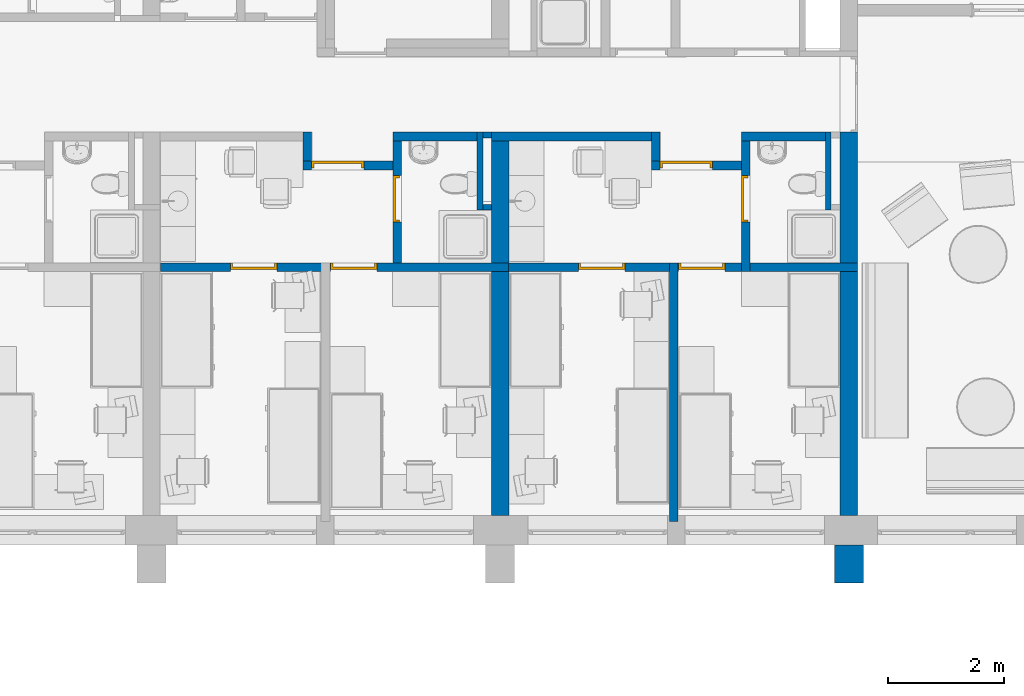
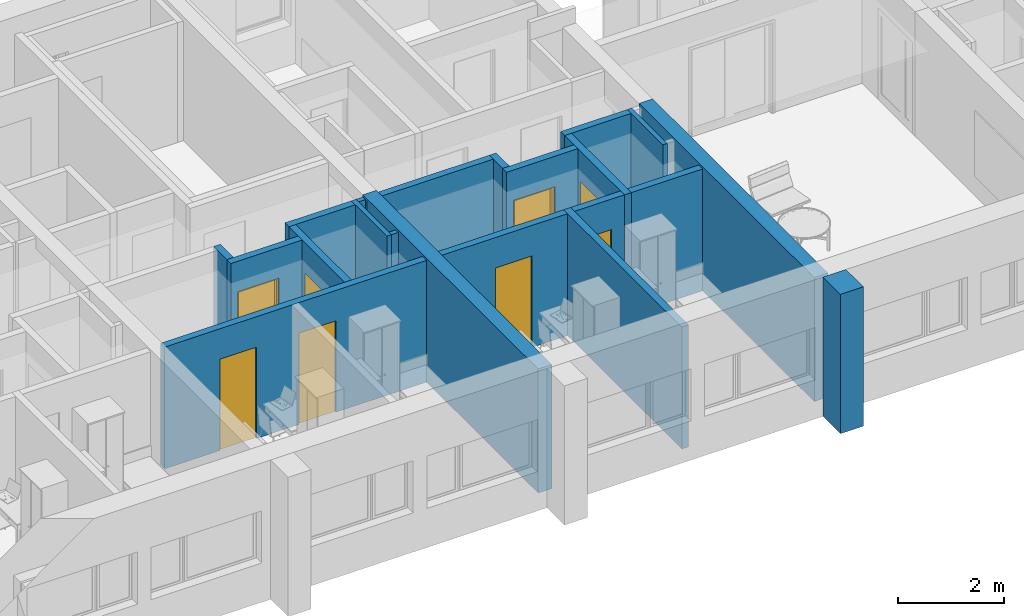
# One storey, part 11 of 165: 19 walls, 8 doors, 8 openings.
"""IFC2X3 building model written with IfcOpenShell, lengths in millimetres."""

from ifc_helpers import new_model, entity, si_unit, converted_unit, money_unit, direction, frame, origin_with_axes, place, context, subcontext, project, spatial, polyline, outline, extrude, faceted_brep, source, transform, mapped, material, material_list, layer, layer_set, layer_usage, type_object, element, fill, save


model = new_model("IFC2X3")

# Units and contexts
model_context = context("Model", 3, precision=1e-05, world=origin_with_axes(), true_north=direction((0.0, 1.0)))
body_context = subcontext(model_context, "Body", "Model", "MODEL_VIEW")
ifc_project = project(units=[si_unit("LENGTHUNIT", "METRE", prefix="MILLI"), si_unit("AREAUNIT", "SQUARE_METRE"), si_unit("VOLUMEUNIT", "CUBIC_METRE"), converted_unit("PLANEANGLEUNIT", "DEGREE", entity("IfcPlaneAngleMeasure", 0.0174532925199), si_unit("PLANEANGLEUNIT", "RADIAN"), dimensions=[0, 0, 0, 0, 0, 0, 0]), si_unit("SOLIDANGLEUNIT", "STERADIAN"), money_unit("USD"), converted_unit("TIMEUNIT", "Year", entity("IfcTimeMeasure", 31556926.0), si_unit("TIMEUNIT", "SECOND"), dimensions=[0, 0, 0, 0, 0, 0, 0]), si_unit("MASSUNIT", "GRAM"), si_unit("THERMODYNAMICTEMPERATUREUNIT", "DEGREE_CELSIUS"), si_unit("LUMINOUSINTENSITYUNIT", "LUMEN")], contexts=[model_context])

# Site, building, storey
site_placement = place(None, origin_with_axes())
site = spatial("IfcSite", under=ifc_project, at=site_placement, Name="Site", CompositionType="ELEMENT")
building_placement = place(site_placement, origin_with_axes())
building = spatial("IfcBuilding", under=site, at=building_placement, Name="Building", CompositionType="ELEMENT")
storey_placement = place(building_placement, frame((0.0, 0.0, 6300.0), z_axis=(0.0, 0.0, 1.0), x_axis=(1.0, 0.0, 0.0)))
storey = spatial("IfcBuildingStorey", under=building, at=storey_placement, Name="4KORRUS", CompositionType="ELEMENT", Elevation=6300.0)

# Wall
ifc_material_1 = material(Name="Olemasolevad seinad tellis, uus viimistlus")
ifc_layer_1 = layer(ifc_material_1, 500.0, ventilated="UNKNOWN")
ifc_layer_set_1 = layer_set([ifc_layer_1], Name="Olemasolevad seinad tellis, uus viimistlus 500")
ifc_layer_usage_1 = layer_usage(ifc_layer_set_1, "AXIS2", "POSITIVE", -100.0)
wall_type_1 = type_object("IfcWallType", Name="Olemasolevad seinad tellis, uus viimistlus 500", PredefinedType="NOTDEFINED")
wall_1_placement = place(storey_placement, frame((-11990.2967033, -20796.6419407, 0.0), z_axis=(0.0, 0.0, 1.0), x_axis=(0.0, 1.0, 0.0)))
element("IfcWallStandardCase", 1, at=wall_1_placement, inside=storey, type_object=wall_type_1, material=ifc_layer_usage_1, Name="VS1", ObjectType="VS1", context=body_context, shape_type="SweptSolid", body=[
    extrude(outline(polyline([(0.0, -100.0), (657.402041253, -100.0), (657.402041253, 400.0), (0.0, 400.0), (0.0, -100.0)])), origin_with_axes(), (0.0, 0.0, 1.0), 3200.0),
])

# Wall, opening, door
ifc_material_2 = material(Name="UmbKipsplaat")
ifc_layer_2 = layer(ifc_material_2, 13.0, ventilated="UNKNOWN")
ifc_layer_3 = layer(ifc_material_2, 13.0, ventilated="UNKNOWN")
ifc_material_3 = material(Name="SOOJUSTUS MINERAALVILL")
ifc_layer_4 = layer(ifc_material_3, 98.0, ventilated="UNKNOWN")
ifc_layer_5 = layer(ifc_material_2, 13.0, ventilated="UNKNOWN")
ifc_layer_6 = layer(ifc_material_2, 13.0, ventilated="UNKNOWN")
ifc_layer_set_2 = layer_set([ifc_layer_2, ifc_layer_3, ifc_layer_4, ifc_layer_5, ifc_layer_6], Name="kipssein150")
ifc_layer_usage_2 = layer_usage(ifc_layer_set_2, "AXIS2", "POSITIVE", -150.0)
wall_type_2 = type_object("IfcWallType", Name="kipssein150 150", PredefinedType="NOTDEFINED")
wall_2_placement = place(storey_placement, frame((-13990.4900844, -15439.2398994, 0.0), z_axis=(0.0, 0.0, 1.0), x_axis=(0.0, 1.0, 0.0)))
wall_2 = element("IfcWallStandardCase", 2, at=wall_2_placement, inside=storey, type_object=wall_type_2, material=ifc_layer_usage_2, Name="SS1", ObjectType="SS1", context=body_context, shape_type="SweptSolid", body=[
    extrude(outline(polyline([(0.0, -150.0), (2399.86932682, -150.0), (2399.86932682, 0.0), (0.0, 0.0), (0.0, -150.0)])), origin_with_axes(), (0.0, 0.0, 1.0), 2800.0),
])
opening_1_placement = place(wall_2_placement, frame((1249.78749111, 0.0, 0.0), z_axis=(0.0, 0.0, 1.0), x_axis=(1.0, 0.0, 0.0)))
opening_1 = element("IfcOpeningElement", 3, at=opening_1_placement, cuts=wall_2, Name="SU3-2", context=body_context, shape_type="SweptSolid", body=[
    extrude(outline(polyline([(-400.0, -2100.0), (400.0, -2100.0), (400.0, 0.0), (-400.0, 0.0), (-400.0, -2100.0)])), frame((0.0, -150.0, 0.0), z_axis=(0.0, 1.0, 0.0), x_axis=(1.0, 0.0, 0.0)), (0.0, 0.0, 1.0), 450.0),
])
ifc_material_4 = material(Name="Background")
ifc_material_list = material_list([ifc_material_4])
door_style_1 = type_object("IfcDoorStyle", Name="Door 19", ConstructionType="NOTDEFINED", OperationType="SINGLE_SWING_RIGHT", ParameterTakesPrecedence=False, Sizeable=False)
shared_shape_1 = source(origin_with_axes(), body_context, "Body", "Brep", [
    faceted_brep([(-360.0, -40.0, 0.0), (-360.0, -40.0, 2060.0), (-360.0, -115.0, 2060.0), (-360.0, -115.0, 0.0), (-372.0, -40.0, 2060.0), (-372.0, -40.0, 0.0), (-372.0, 0.0, 2060.0), (-400.0, 0.0, 2060.0), (-400.0, -115.0, 2060.0), (-400.0, -115.0, 0.0), (-400.0, 0.0, 0.0), (-372.0, 0.0, 0.0)], [[[0, 1, 2, 3]], [[4, 1, 0, 5]], [[4, 6, 7, 8, 2, 1]], [[2, 8, 9, 3]], [[5, 0, 3, 9, 10, 11]], [[6, 4, 5, 11]], [[6, 11, 10, 7]], [[9, 8, 7, 10]]]),
    faceted_brep([(372.0, -40.0, 2060.0), (360.0, -40.0, 2060.0), (360.0, -115.0, 2060.0), (400.0, -115.0, 2060.0), (400.0, 0.0, 2060.0), (372.0, 0.0, 2060.0), (372.0, -40.0, 0.0), (360.0, -40.0, 0.0), (360.0, -115.0, 0.0), (400.0, -115.0, 0.0), (400.0, 0.0, 0.0), (372.0, 0.0, 0.0)], [[[0, 1, 2, 3, 4, 5]], [[1, 0, 6, 7]], [[1, 7, 8, 2]], [[2, 8, 9, 3]], [[3, 9, 10, 4]], [[11, 5, 4, 10]], [[0, 5, 11, 6]], [[6, 11, 10, 9, 8, 7]]]),
    faceted_brep([(-372.0, 0.0, 2072.0), (-372.0, 0.0, 2060.0), (-400.0, 0.0, 2060.0), (-400.0, 0.0, 2100.0), (400.0, 0.0, 2100.0), (400.0, 0.0, 2060.0), (372.0, 0.0, 2060.0), (372.0, 0.0, 2072.0), (-372.0, -40.0, 2072.0), (-372.0, -40.0, 2060.0), (-360.0, -40.0, 2060.0), (-360.0, -115.0, 2060.0), (-400.0, -115.0, 2060.0), (-400.0, -115.0, 2100.0), (400.0, -115.0, 2100.0), (400.0, -115.0, 2060.0), (372.0, -40.0, 2060.0), (360.0, -115.0, 2060.0), (360.0, -40.0, 2060.0), (372.0, -40.0, 2072.0)], [[[0, 1, 2, 3, 4, 5, 6, 7]], [[1, 0, 8, 9]], [[9, 10, 11, 12, 2, 1]], [[12, 13, 3, 2]], [[13, 14, 4, 3]], [[14, 15, 5, 4]], [[16, 6, 5, 15, 17, 18]], [[7, 6, 16, 19]], [[0, 7, 19, 8]], [[16, 18, 10, 9, 8, 19]], [[10, 18, 17, 11]], [[15, 14, 13, 12, 11, 17]]]),
    faceted_brep([(372.0, 0.0, 0.0), (372.0, -40.0, 0.0), (-372.0, -40.0, 0.0), (-372.0, 0.0, 0.0), (372.0, 0.0, 2072.0), (372.0, -40.0, 2072.0), (-372.0, -40.0, 2072.0), (-372.0, 0.0, 2072.0)], [[[0, 1, 2, 3]], [[4, 5, 1, 0]], [[1, 5, 6, 2]], [[3, 2, 6, 7]], [[0, 3, 7, 4]], [[7, 6, 5, 4]]]),
])
door_1_placement = place(opening_1_placement, frame((-400.0, 0.0, 0.0), z_axis=(0.0, 0.0, 1.0), x_axis=(1.0, 0.0, 0.0)))
door_1 = element("IfcDoor", 4, at=door_1_placement, inside=storey, type_object=door_style_1, material=ifc_material_list, Name="SU3-2", ObjectType="WC-uks", OverallHeight=2100.0, OverallWidth=800.0, context=body_context, shape_type="MappedRepresentation", body=[
    mapped(shared_shape_1, transform((400.0, 0.0, 0.0))),
])
fill(opening_1, door_1)

# Wall
ifc_layer_usage_3 = layer_usage(ifc_layer_set_2, "AXIS2", "POSITIVE", 0.0)
wall_3_placement = place(storey_placement, frame((-21533.8623684, -13039.2398994, 0.0), z_axis=(0.0, 0.0, 1.0), x_axis=(0.0, -1.0, 0.0)))
element("IfcWallStandardCase", 5, at=wall_3_placement, inside=storey, type_object=wall_type_2, material=ifc_layer_usage_3, Name="SS1", ObjectType="SS1", context=body_context, shape_type="SweptSolid", body=[
    extrude(outline(polyline([(0.0, 0.0), (500.212508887, 0.0), (500.212508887, 150.0), (0.0, 150.0), (0.0, 0.0)])), origin_with_axes(), (0.0, 0.0, 1.0), 2800.0),
])

# Wall, opening, door
ifc_layer_usage_4 = layer_usage(ifc_layer_set_2, "AXIS2", "POSITIVE", -150.0)
wall_4_placement = place(storey_placement, frame((-19984.201689, -15289.2398994, 0.0), z_axis=(0.0, 0.0, 1.0), x_axis=(0.0, 1.0, 0.0)))
wall_4 = element("IfcWallStandardCase", 6, at=wall_4_placement, inside=storey, type_object=wall_type_2, material=ifc_layer_usage_4, Name="SS1", ObjectType="SS1", context=body_context, shape_type="SweptSolid", body=[
    extrude(outline(polyline([(0.0, -150.0), (2249.86932682, -150.0), (2249.86932682, 0.0), (0.0, 0.0), (0.0, -150.0)])), origin_with_axes(), (0.0, 0.0, 1.0), 2800.0),
])
opening_2_placement = place(wall_4_placement, frame((1099.78749111, 0.0, 0.0), z_axis=(0.0, 0.0, 1.0), x_axis=(1.0, 0.0, 0.0)))
opening_2 = element("IfcOpeningElement", 7, at=opening_2_placement, cuts=wall_4, Name="SU3-2", context=body_context, shape_type="SweptSolid", body=[
    extrude(outline(polyline([(-400.0, -2100.0), (400.0, -2100.0), (400.0, 0.0), (-400.0, 0.0), (-400.0, -2100.0)])), frame((0.0, -150.0, 0.0), z_axis=(0.0, 1.0, 0.0), x_axis=(1.0, 0.0, 0.0)), (0.0, 0.0, 1.0), 450.0),
])
door_style_2 = type_object("IfcDoorStyle", Name="Door 19", ConstructionType="NOTDEFINED", OperationType="SINGLE_SWING_RIGHT", ParameterTakesPrecedence=False, Sizeable=False)
door_2_placement = place(opening_2_placement, frame((-400.0, 0.0, 0.0), z_axis=(0.0, 0.0, 1.0), x_axis=(1.0, 0.0, 0.0)))
door_2 = element("IfcDoor", 8, at=door_2_placement, inside=storey, type_object=door_style_2, material=ifc_material_list, Name="SU3-2", ObjectType="WC-uks", OverallHeight=2100.0, OverallWidth=800.0, context=body_context, shape_type="MappedRepresentation", body=[
    mapped(shared_shape_1, transform((400.0, 0.0, 0.0))),
])
fill(opening_2, door_2)

# Wall
ifc_layer_usage_5 = layer_usage(ifc_layer_set_2, "AXIS2", "POSITIVE", -150.0)
wall_5_placement = place(storey_placement, frame((-19984.201689, -13039.3705726, 0.0), z_axis=(0.0, 0.0, 1.0), x_axis=(1.0, 0.0, 0.0)))
element("IfcWallStandardCase", 9, at=wall_5_placement, inside=storey, type_object=wall_type_2, material=ifc_layer_usage_5, Name="SS1", ObjectType="SS1", context=body_context, shape_type="SweptSolid", body=[
    extrude(outline(polyline([(0.0, -150.0), (1450.19338105, -150.0), (1450.19338105, 0.0), (0.0, 0.0), (0.0, -150.0)])), origin_with_axes(), (0.0, 0.0, 1.0), 2800.0),
])

# Wall, opening, door
ifc_layer_usage_6 = layer_usage(ifc_layer_set_2, "AXIS2", "POSITIVE", 0.0)
wall_6_placement = place(storey_placement, frame((-13990.4900844, -13539.4524083, 0.0), z_axis=(0.0, 0.0, 1.0), x_axis=(-1.0, 0.0, 0.0)))
wall_6 = element("IfcWallStandardCase", 10, at=wall_6_placement, inside=storey, type_object=wall_type_2, material=ifc_layer_usage_6, Name="SS1", ObjectType="SS1", context=body_context, shape_type="SweptSolid", body=[
    extrude(outline(polyline([(0.0, 0.0), (1549.66067938, 0.0), (1549.66067938, 150.0), (0.0, 150.0), (0.0, 0.0)])), origin_with_axes(), (0.0, 0.0, 1.0), 2800.0),
])
opening_3_placement = place(wall_6_placement, frame((949.660679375, 0.0, 0.0), z_axis=(0.0, 0.0, 1.0), x_axis=(1.0, 0.0, 0.0)))
opening_3 = element("IfcOpeningElement", 11, at=opening_3_placement, cuts=wall_6, Name="SU2-6", context=body_context, shape_type="SweptSolid", body=[
    extrude(outline(polyline([(-450.0, -2100.0), (450.0, -2100.0), (450.0, 0.0), (-450.0, 0.0), (-450.0, -2100.0)])), frame((0.0, 150.0, 0.0), z_axis=(0.0, 1.0, 0.0), x_axis=(1.0, 0.0, 0.0)), (0.0, 0.0, -1.0), 450.0),
])
door_style_3 = type_object("IfcDoorStyle", Name="Door 19", ConstructionType="NOTDEFINED", OperationType="SINGLE_SWING_LEFT", ParameterTakesPrecedence=False, Sizeable=False)
shared_shape_2 = source(origin_with_axes(), body_context, "Body", "Brep", [
    faceted_brep([(410.0, -40.0, 0.0), (410.0, -115.0, 0.0), (410.0, -115.0, 2060.0), (410.0, -40.0, 2060.0), (422.0, -40.0, 0.0), (422.0, 0.0, 0.0), (450.0, 0.0, 0.0), (450.0, -115.0, 0.0), (450.0, -115.0, 2060.0), (422.0, -40.0, 2060.0), (450.0, 0.0, 2060.0), (422.0, 0.0, 2060.0)], [[[0, 1, 2, 3]], [[4, 5, 6, 7, 1, 0]], [[2, 1, 7, 8]], [[9, 3, 2, 8, 10, 11]], [[9, 4, 0, 3]], [[11, 5, 4, 9]], [[11, 10, 6, 5]], [[7, 6, 10, 8]]]),
    faceted_brep([(-422.0, -40.0, 2060.0), (-422.0, 0.0, 2060.0), (-450.0, 0.0, 2060.0), (-450.0, -115.0, 2060.0), (-410.0, -115.0, 2060.0), (-410.0, -40.0, 2060.0), (-422.0, -40.0, 0.0), (-422.0, 0.0, 0.0), (-450.0, 0.0, 0.0), (-450.0, -115.0, 0.0), (-410.0, -115.0, 0.0), (-410.0, -40.0, 0.0)], [[[0, 1, 2, 3, 4, 5]], [[0, 6, 7, 1]], [[7, 8, 2, 1]], [[3, 2, 8, 9]], [[4, 3, 9, 10]], [[5, 4, 10, 11]], [[5, 11, 6, 0]], [[6, 11, 10, 9, 8, 7]]]),
    faceted_brep([(422.0, 0.0, 2072.0), (-422.0, 0.0, 2072.0), (-422.0, 0.0, 2060.0), (-450.0, 0.0, 2060.0), (-450.0, 0.0, 2100.0), (450.0, 0.0, 2100.0), (450.0, 0.0, 2060.0), (422.0, 0.0, 2060.0), (422.0, -40.0, 2072.0), (-422.0, -40.0, 2072.0), (-422.0, -40.0, 2060.0), (-410.0, -40.0, 2060.0), (-410.0, -115.0, 2060.0), (-450.0, -115.0, 2060.0), (-450.0, -115.0, 2100.0), (450.0, -115.0, 2100.0), (450.0, -115.0, 2060.0), (422.0, -40.0, 2060.0), (410.0, -115.0, 2060.0), (410.0, -40.0, 2060.0)], [[[0, 1, 2, 3, 4, 5, 6, 7]], [[0, 8, 9, 1]], [[1, 9, 10, 2]], [[10, 11, 12, 13, 3, 2]], [[14, 4, 3, 13]], [[15, 5, 4, 14]], [[16, 6, 5, 15]], [[17, 7, 6, 16, 18, 19]], [[7, 17, 8, 0]], [[10, 9, 8, 17, 19, 11]], [[19, 18, 12, 11]], [[13, 12, 18, 16, 15, 14]]]),
    faceted_brep([(-422.0, 0.0, 0.0), (422.0, 0.0, 0.0), (422.0, -40.0, 0.0), (-422.0, -40.0, 0.0), (-422.0, 0.0, 2072.0), (422.0, 0.0, 2072.0), (422.0, -40.0, 2072.0), (-422.0, -40.0, 2072.0)], [[[0, 1, 2, 3]], [[0, 4, 5, 1]], [[1, 5, 6, 2]], [[3, 2, 6, 7]], [[4, 0, 3, 7]], [[5, 4, 7, 6]]]),
])
door_3_placement = place(opening_3_placement, frame((450.0, 0.0, 0.0), z_axis=(0.0, 0.0, 1.0), x_axis=(-1.0, 0.0, 0.0)))
door_3 = element("IfcDoor", 12, at=door_3_placement, inside=storey, type_object=door_style_3, material=ifc_material_list, Name="SU2-6", ObjectType="Korteri välisuks", OverallHeight=2100.0, OverallWidth=900.0, context=body_context, shape_type="MappedRepresentation", body=[
    mapped(shared_shape_2, transform((450.0, 0.0, 0.0))),
])
fill(opening_3, door_3)

# Walls
ifc_layer_usage_7 = layer_usage(ifc_layer_set_2, "AXIS2", "POSITIVE", 0.0)
wall_7_placement = place(storey_placement, frame((-15076.5850987, -19739.2398994, 0.0), z_axis=(0.0, 0.0, 1.0), x_axis=(0.0, 1.0, 0.0)))
element("IfcWallStandardCase", 13, at=wall_7_placement, inside=storey, type_object=wall_type_2, material=ifc_layer_usage_7, Name="SS1", ObjectType="SS1", context=body_context, shape_type="SweptSolid", body=[
    extrude(outline(polyline([(0.0, 0.0), (4450.0, 0.0), (4450.0, 150.0), (0.0, 150.0), (0.0, 0.0)])), origin_with_axes(), (0.0, 0.0, 1.0), 2800.0),
])
ifc_layer_usage_8 = layer_usage(ifc_layer_set_2, "AXIS2", "POSITIVE", 0.0)
wall_8_placement = place(storey_placement, frame((-15540.1507637, -13039.2398994, 0.0), z_axis=(0.0, 0.0, 1.0), x_axis=(-1.0, 0.0, 0.0)))
element("IfcWallStandardCase", 14, at=wall_8_placement, inside=storey, type_object=wall_type_2, material=ifc_layer_usage_8, Name="SS1", ObjectType="SS1", context=body_context, shape_type="SweptSolid", body=[
    extrude(outline(polyline([(0.0, 0.0), (2750.14593957, 0.0), (2750.14593957, 150.0), (0.0, 150.0), (0.0, 0.0)])), origin_with_axes(), (0.0, 0.0, 1.0), 2800.0),
])

# Wall, openings, doors
ifc_layer_usage_9 = layer_usage(ifc_layer_set_2, "AXIS2", "POSITIVE", -150.0)
wall_9_placement = place(storey_placement, frame((-11990.2967033, -15439.2398994, 0.0), z_axis=(0.0, 0.0, 1.0), x_axis=(-1.0, 0.0, 0.0)))
wall_9 = element("IfcWallStandardCase", 15, at=wall_9_placement, inside=storey, type_object=wall_type_2, material=ifc_layer_usage_9, Name="SS1", ObjectType="SS1", context=body_context, shape_type="SweptSolid", body=[
    extrude(outline(polyline([(0.0, -150.0), (6006.28839536, -150.0), (6006.28839536, 0.0), (0.0, 0.0), (0.0, -150.0)])), origin_with_axes(), (0.0, 0.0, 1.0), 2800.0),
])
opening_4_placement = place(wall_9_placement, frame((4406.28839536, 0.0, 0.0), z_axis=(0.0, 0.0, 1.0), x_axis=(1.0, 0.0, 0.0)))
opening_4 = element("IfcOpeningElement", 16, at=opening_4_placement, cuts=wall_9, Name="SU3-5", context=body_context, shape_type="SweptSolid", body=[
    extrude(outline(polyline([(-400.0, 0.0), (400.0, 0.0), (400.0, 2100.0), (-400.0, 2100.0), (-400.0, 0.0)])), frame((0.0, 150.0, 0.0), z_axis=(0.0, 1.0, 0.0), x_axis=(-1.0, 0.0, 0.0)), (0.0, 0.0, -1.0), 450.0),
])
opening_5_placement = place(wall_9_placement, frame((2681.28839536, 0.0, 0.0), z_axis=(0.0, 0.0, 1.0), x_axis=(1.0, 0.0, 0.0)))
opening_5 = element("IfcOpeningElement", 17, at=opening_5_placement, cuts=wall_9, Name="SU3-4", context=body_context, shape_type="SweptSolid", body=[
    extrude(outline(polyline([(-400.0, 0.0), (400.0, 0.0), (400.0, 2100.0), (-400.0, 2100.0), (-400.0, 0.0)])), frame((0.0, 150.0, 0.0), z_axis=(0.0, -1.0, 0.0), x_axis=(1.0, 0.0, 0.0)), (0.0, 0.0, 1.0), 450.0),
])
door_style_4 = type_object("IfcDoorStyle", Name="Door 19", ConstructionType="NOTDEFINED", OperationType="SINGLE_SWING_LEFT", ParameterTakesPrecedence=False, Sizeable=False)
shared_shape_3 = source(origin_with_axes(), body_context, "Body", "Brep", [
    faceted_brep([(360.0, -75.0, 0.0), (360.0, -150.0, 0.0), (360.0, -150.0, 2060.0), (360.0, -75.0, 2060.0), (372.0, -75.0, 0.0), (372.0, -35.0, 0.0), (400.0, -35.0, 0.0), (400.0, -150.0, 0.0), (400.0, -150.0, 2060.0), (372.0, -75.0, 2060.0), (400.0, -35.0, 2060.0), (372.0, -35.0, 2060.0)], [[[0, 1, 2, 3]], [[4, 5, 6, 7, 1, 0]], [[2, 1, 7, 8]], [[9, 3, 2, 8, 10, 11]], [[9, 4, 0, 3]], [[11, 5, 4, 9]], [[11, 10, 6, 5]], [[7, 6, 10, 8]]]),
    faceted_brep([(-372.0, -75.0, 2060.0), (-372.0, -35.0, 2060.0), (-400.0, -35.0, 2060.0), (-400.0, -150.0, 2060.0), (-360.0, -150.0, 2060.0), (-360.0, -75.0, 2060.0), (-372.0, -75.0, 0.0), (-372.0, -35.0, 0.0), (-400.0, -35.0, 0.0), (-400.0, -150.0, 0.0), (-360.0, -150.0, 0.0), (-360.0, -75.0, 0.0)], [[[0, 1, 2, 3, 4, 5]], [[0, 6, 7, 1]], [[7, 8, 2, 1]], [[3, 2, 8, 9]], [[4, 3, 9, 10]], [[5, 4, 10, 11]], [[5, 11, 6, 0]], [[6, 11, 10, 9, 8, 7]]]),
    faceted_brep([(372.0, -35.0, 2072.0), (-372.0, -35.0, 2072.0), (-372.0, -35.0, 2060.0), (-400.0, -35.0, 2060.0), (-400.0, -35.0, 2100.0), (400.0, -35.0, 2100.0), (400.0, -35.0, 2060.0), (372.0, -35.0, 2060.0), (372.0, -75.0, 2072.0), (-372.0, -75.0, 2072.0), (-372.0, -75.0, 2060.0), (-360.0, -75.0, 2060.0), (-360.0, -150.0, 2060.0), (-400.0, -150.0, 2060.0), (-400.0, -150.0, 2100.0), (400.0, -150.0, 2100.0), (400.0, -150.0, 2060.0), (372.0, -75.0, 2060.0), (360.0, -150.0, 2060.0), (360.0, -75.0, 2060.0)], [[[0, 1, 2, 3, 4, 5, 6, 7]], [[0, 8, 9, 1]], [[1, 9, 10, 2]], [[10, 11, 12, 13, 3, 2]], [[14, 4, 3, 13]], [[15, 5, 4, 14]], [[16, 6, 5, 15]], [[17, 7, 6, 16, 18, 19]], [[7, 17, 8, 0]], [[10, 9, 8, 17, 19, 11]], [[19, 18, 12, 11]], [[13, 12, 18, 16, 15, 14]]]),
    faceted_brep([(-372.0, -35.0, 0.0), (372.0, -35.0, 0.0), (372.0, -75.0, 0.0), (-372.0, -75.0, 0.0), (-372.0, -35.0, 2072.0), (372.0, -35.0, 2072.0), (372.0, -75.0, 2072.0), (-372.0, -75.0, 2072.0)], [[[0, 1, 2, 3]], [[0, 4, 5, 1]], [[1, 5, 6, 2]], [[3, 2, 6, 7]], [[4, 0, 3, 7]], [[5, 4, 7, 6]]]),
])
door_4_placement = place(opening_4_placement, frame((-400.0, 0.0, 0.0), z_axis=(0.0, 0.0, 1.0), x_axis=(1.0, 0.0, 0.0)))
door_4 = element("IfcDoor", 18, at=door_4_placement, inside=storey, type_object=door_style_4, material=ifc_material_list, Name="SU3-5", ObjectType="Toa uks", OverallHeight=2100.0, OverallWidth=800.0, context=body_context, shape_type="MappedRepresentation", body=[
    mapped(shared_shape_3, transform((400.0, 0.0, 0.0))),
])
fill(opening_4, door_4)
door_style_5 = type_object("IfcDoorStyle", Name="Door 19", ConstructionType="NOTDEFINED", OperationType="SINGLE_SWING_RIGHT", ParameterTakesPrecedence=False, Sizeable=False)
shared_shape_4 = source(origin_with_axes(), body_context, "Body", "Brep", [
    faceted_brep([(-360.0, -75.0, 0.0), (-360.0, -75.0, 2060.0), (-360.0, -150.0, 2060.0), (-360.0, -150.0, 0.0), (-372.0, -75.0, 2060.0), (-372.0, -75.0, 0.0), (-372.0, -35.0, 2060.0), (-400.0, -35.0, 2060.0), (-400.0, -150.0, 2060.0), (-400.0, -150.0, 0.0), (-400.0, -35.0, 0.0), (-372.0, -35.0, 0.0)], [[[0, 1, 2, 3]], [[4, 1, 0, 5]], [[4, 6, 7, 8, 2, 1]], [[2, 8, 9, 3]], [[5, 0, 3, 9, 10, 11]], [[6, 4, 5, 11]], [[6, 11, 10, 7]], [[9, 8, 7, 10]]]),
    faceted_brep([(372.0, -75.0, 2060.0), (360.0, -75.0, 2060.0), (360.0, -150.0, 2060.0), (400.0, -150.0, 2060.0), (400.0, -35.0, 2060.0), (372.0, -35.0, 2060.0), (372.0, -75.0, 0.0), (360.0, -75.0, 0.0), (360.0, -150.0, 0.0), (400.0, -150.0, 0.0), (400.0, -35.0, 0.0), (372.0, -35.0, 0.0)], [[[0, 1, 2, 3, 4, 5]], [[1, 0, 6, 7]], [[1, 7, 8, 2]], [[2, 8, 9, 3]], [[3, 9, 10, 4]], [[11, 5, 4, 10]], [[0, 5, 11, 6]], [[6, 11, 10, 9, 8, 7]]]),
    faceted_brep([(-372.0, -35.0, 2072.0), (-372.0, -35.0, 2060.0), (-400.0, -35.0, 2060.0), (-400.0, -35.0, 2100.0), (400.0, -35.0, 2100.0), (400.0, -35.0, 2060.0), (372.0, -35.0, 2060.0), (372.0, -35.0, 2072.0), (-372.0, -75.0, 2072.0), (-372.0, -75.0, 2060.0), (-360.0, -75.0, 2060.0), (-360.0, -150.0, 2060.0), (-400.0, -150.0, 2060.0), (-400.0, -150.0, 2100.0), (400.0, -150.0, 2100.0), (400.0, -150.0, 2060.0), (372.0, -75.0, 2060.0), (360.0, -150.0, 2060.0), (360.0, -75.0, 2060.0), (372.0, -75.0, 2072.0)], [[[0, 1, 2, 3, 4, 5, 6, 7]], [[1, 0, 8, 9]], [[9, 10, 11, 12, 2, 1]], [[12, 13, 3, 2]], [[13, 14, 4, 3]], [[14, 15, 5, 4]], [[16, 6, 5, 15, 17, 18]], [[7, 6, 16, 19]], [[0, 7, 19, 8]], [[16, 18, 10, 9, 8, 19]], [[10, 18, 17, 11]], [[15, 14, 13, 12, 11, 17]]]),
    faceted_brep([(372.0, -35.0, 0.0), (372.0, -75.0, 0.0), (-372.0, -75.0, 0.0), (-372.0, -35.0, 0.0), (372.0, -35.0, 2072.0), (372.0, -75.0, 2072.0), (-372.0, -75.0, 2072.0), (-372.0, -35.0, 2072.0)], [[[0, 1, 2, 3]], [[4, 5, 1, 0]], [[1, 5, 6, 2]], [[3, 2, 6, 7]], [[0, 3, 7, 4]], [[7, 6, 5, 4]]]),
])
door_5_placement = place(opening_5_placement, frame((-400.0, 0.0, 0.0), z_axis=(0.0, 0.0, 1.0), x_axis=(1.0, 0.0, 0.0)))
door_5 = element("IfcDoor", 19, at=door_5_placement, inside=storey, type_object=door_style_5, material=ifc_material_list, Name="SU3-4", ObjectType="Toa uks", OverallHeight=2100.0, OverallWidth=800.0, context=body_context, shape_type="MappedRepresentation", body=[
    mapped(shared_shape_4, transform((400.0, 0.0, 0.0))),
])
fill(opening_5, door_5)

ifc_layer_usage_10 = layer_usage(ifc_layer_set_2, "AXIS2", "POSITIVE", -150.0)
wall_10_placement = place(storey_placement, frame((-17984.008308, -15439.2398994, 0.0), z_axis=(0.0, 0.0, 1.0), x_axis=(-1.0, 0.0, 0.0)))
wall_10 = element("IfcWallStandardCase", 20, at=wall_10_placement, inside=storey, type_object=wall_type_2, material=ifc_layer_usage_10, Name="SS1", ObjectType="SS1", context=body_context, shape_type="SweptSolid", body=[
    extrude(outline(polyline([(0.0, -150.0), (6000.0, -150.0), (6000.0, 0.0), (0.0, 0.0), (0.0, -150.0)])), origin_with_axes(), (0.0, 0.0, 1.0), 2800.0),
])
opening_6_placement = place(wall_10_placement, frame((4400.0, 0.0, 0.0), z_axis=(0.0, 0.0, 1.0), x_axis=(1.0, 0.0, 0.0)))
opening_6 = element("IfcOpeningElement", 21, at=opening_6_placement, cuts=wall_10, Name="SU3-5", context=body_context, shape_type="SweptSolid", body=[
    extrude(outline(polyline([(-400.0, 0.0), (400.0, 0.0), (400.0, 2100.0), (-400.0, 2100.0), (-400.0, 0.0)])), frame((0.0, 150.0, 0.0), z_axis=(0.0, 1.0, 0.0), x_axis=(-1.0, 0.0, 0.0)), (0.0, 0.0, -1.0), 450.0),
])
opening_7_placement = place(wall_10_placement, frame((2675.0, 0.0, 0.0), z_axis=(0.0, 0.0, 1.0), x_axis=(1.0, 0.0, 0.0)))
opening_7 = element("IfcOpeningElement", 22, at=opening_7_placement, cuts=wall_10, Name="SU3-4", context=body_context, shape_type="SweptSolid", body=[
    extrude(outline(polyline([(-400.0, 0.0), (400.0, 0.0), (400.0, 2100.0), (-400.0, 2100.0), (-400.0, 0.0)])), frame((0.0, 150.0, 0.0), z_axis=(0.0, -1.0, 0.0), x_axis=(1.0, 0.0, 0.0)), (0.0, 0.0, 1.0), 450.0),
])
door_6_placement = place(opening_6_placement, frame((-400.0, 0.0, 0.0), z_axis=(0.0, 0.0, 1.0), x_axis=(1.0, 0.0, 0.0)))
door_6 = element("IfcDoor", 23, at=door_6_placement, inside=storey, type_object=door_style_4, material=ifc_material_list, Name="SU3-5", ObjectType="Toa uks", OverallHeight=2100.0, OverallWidth=800.0, context=body_context, shape_type="MappedRepresentation", body=[
    mapped(shared_shape_3, transform((400.0, 0.0, 0.0))),
])
fill(opening_6, door_6)
door_7_placement = place(opening_7_placement, frame((-400.0, 0.0, 0.0), z_axis=(0.0, 0.0, 1.0), x_axis=(1.0, 0.0, 0.0)))
door_7 = element("IfcDoor", 24, at=door_7_placement, inside=storey, type_object=door_style_5, material=ifc_material_list, Name="SU3-4", ObjectType="Toa uks", OverallHeight=2100.0, OverallWidth=800.0, context=body_context, shape_type="MappedRepresentation", body=[
    mapped(shared_shape_4, transform((400.0, 0.0, 0.0))),
])
fill(opening_7, door_7)

# Wall, opening, door
ifc_layer_usage_11 = layer_usage(ifc_layer_set_2, "AXIS2", "POSITIVE", 0.0)
wall_11_placement = place(storey_placement, frame((-19984.201689, -13539.4524083, 0.0), z_axis=(0.0, 0.0, 1.0), x_axis=(-1.0, 0.0, 0.0)))
wall_11 = element("IfcWallStandardCase", 25, at=wall_11_placement, inside=storey, type_object=wall_type_2, material=ifc_layer_usage_11, Name="SS1", ObjectType="SS1", context=body_context, shape_type="SweptSolid", body=[
    extrude(outline(polyline([(0.0, 0.0), (1549.66067938, 0.0), (1549.66067938, 150.0), (0.0, 150.0), (0.0, 0.0)])), origin_with_axes(), (0.0, 0.0, 1.0), 2800.0),
])
opening_8_placement = place(wall_11_placement, frame((949.660679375, 0.0, 0.0), z_axis=(0.0, 0.0, 1.0), x_axis=(1.0, 0.0, 0.0)))
opening_8 = element("IfcOpeningElement", 26, at=opening_8_placement, cuts=wall_11, Name="SU2-6", context=body_context, shape_type="SweptSolid", body=[
    extrude(outline(polyline([(-450.0, -2100.0), (450.0, -2100.0), (450.0, 0.0), (-450.0, 0.0), (-450.0, -2100.0)])), frame((0.0, 150.0, 0.0), z_axis=(0.0, 1.0, 0.0), x_axis=(1.0, 0.0, 0.0)), (0.0, 0.0, -1.0), 450.0),
])
door_8_placement = place(opening_8_placement, frame((450.0, 0.0, 0.0), z_axis=(0.0, 0.0, 1.0), x_axis=(-1.0, 0.0, 0.0)))
door_8 = element("IfcDoor", 27, at=door_8_placement, inside=storey, type_object=door_style_3, material=ifc_material_list, Name="SU2-6", ObjectType="Korteri välisuks", OverallHeight=2100.0, OverallWidth=900.0, context=body_context, shape_type="MappedRepresentation", body=[
    mapped(shared_shape_2, transform((450.0, 0.0, 0.0))),
])
fill(opening_8, door_8)

# Walls
ifc_layer_usage_12 = layer_usage(ifc_layer_set_2, "AXIS2", "POSITIVE", -150.0)
wall_12_placement = place(storey_placement, frame((-13990.4900844, -13039.3705726, 0.0), z_axis=(0.0, 0.0, 1.0), x_axis=(1.0, 0.0, 0.0)))
element("IfcWallStandardCase", 28, at=wall_12_placement, inside=storey, type_object=wall_type_2, material=ifc_layer_usage_12, Name="SS1", ObjectType="SS1", context=body_context, shape_type="SweptSolid", body=[
    extrude(outline(polyline([(0.0, -150.0), (1544.19338105, -150.0), (1544.19338105, 0.0), (0.0, 0.0), (0.0, -150.0)])), origin_with_axes(), (0.0, 0.0, 1.0), 2800.0),
])
ifc_layer_usage_13 = layer_usage(ifc_layer_set_2, "AXIS2", "POSITIVE", 0.0)
wall_13_placement = place(storey_placement, frame((-15540.1507637, -13039.2398994, 0.0), z_axis=(0.0, 0.0, 1.0), x_axis=(0.0, -1.0, 0.0)))
element("IfcWallStandardCase", 29, at=wall_13_placement, inside=storey, type_object=wall_type_2, material=ifc_layer_usage_13, Name="SS1", ObjectType="SS1", context=body_context, shape_type="SweptSolid", body=[
    extrude(outline(polyline([(0.0, 0.0), (500.212508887, 0.0), (500.212508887, 150.0), (0.0, 150.0), (0.0, 0.0)])), origin_with_axes(), (0.0, 0.0, 1.0), 2800.0),
])
ifc_material_5 = material(Name="Olemasolevad seinad tellis, uus viimistlus")
ifc_layer_7 = layer(ifc_material_5, 300.0, ventilated="UNKNOWN")
ifc_layer_set_3 = layer_set([ifc_layer_7], Name="Olemasolevad seinad tellis, uus viimistlus  300")
ifc_layer_usage_14 = layer_usage(ifc_layer_set_3, "AXIS2", "POSITIVE", 0.0)
wall_type_3 = type_object("IfcWallType", Name="Olemasolevad seinad tellis, uus viimistlus  300", PredefinedType="NOTDEFINED")
wall_14_placement = place(storey_placement, frame((-11990.2967033, -19639.2398994, 0.0), z_axis=(0.0, 0.0, 1.0), x_axis=(0.0, 1.0, 0.0)))
element("IfcWallStandardCase", 30, at=wall_14_placement, inside=storey, type_object=wall_type_3, material=ifc_layer_usage_14, Name="KS1", ObjectType="KS1", context=body_context, shape_type="SweptSolid", body=[
    extrude(outline(polyline([(0.0, 0.0), (6600.0, 0.0), (6600.0, 300.0), (0.0, 300.0), (0.0, 0.0)])), origin_with_axes(), (0.0, 0.0, 1.0), 2850.0),
])
ifc_layer_usage_15 = layer_usage(ifc_layer_set_3, "AXIS2", "POSITIVE", 0.0)
wall_15_placement = place(storey_placement, frame((-17990.2967033, -19639.2398994, 0.0), z_axis=(0.0, 0.0, 1.0), x_axis=(0.0, 1.0, 0.0)))
element("IfcWallStandardCase", 31, at=wall_15_placement, inside=storey, type_object=wall_type_3, material=ifc_layer_usage_15, Name="KS1", ObjectType="KS1", context=body_context, shape_type="SweptSolid", body=[
    extrude(outline(polyline([(0.0, 0.0), (6602.86932682, 0.0), (6602.86932682, 300.0), (0.0, 300.0), (0.0, 0.0)])), origin_with_axes(), (0.0, 0.0, 1.0), 2850.0),
])
ifc_material_6 = material(Name="krohv")
ifc_layer_8 = layer(ifc_material_6, 2.0, ventilated="UNKNOWN")
ifc_layer_9 = layer(ifc_material_6, 10.0, ventilated="UNKNOWN")
ifc_material_7 = material(Name="Kergplokk")
ifc_layer_10 = layer(ifc_material_7, 76.0, ventilated="UNKNOWN")
ifc_layer_11 = layer(ifc_material_6, 10.0, ventilated="UNKNOWN")
ifc_layer_12 = layer(ifc_material_6, 2.0, ventilated="UNKNOWN")
ifc_layer_set_4 = layer_set([ifc_layer_8, ifc_layer_9, ifc_layer_10, ifc_layer_11, ifc_layer_12], Name="Kergplokk Bauroc 100")
ifc_layer_usage_16 = layer_usage(ifc_layer_set_4, "AXIS2", "POSITIVE", -100.0)
wall_type_4 = type_object("IfcWallType", Name="Kergplokk Bauroc 100 100", PredefinedType="NOTDEFINED")
wall_16_placement = place(storey_placement, frame((-12446.2967033, -13039.3705726, 0.0), z_axis=(0.0, 0.0, 1.0), x_axis=(0.0, -1.0, 0.0)))
element("IfcWallStandardCase", 32, at=wall_16_placement, inside=storey, type_object=wall_type_4, material=ifc_layer_usage_16, Name="SS2", ObjectType="SS2", context=body_context, shape_type="SweptSolid", body=[
    extrude(outline(polyline([(0.0, -100.0), (1341.10105359, -100.0), (1341.10105359, 0.0), (0.0, 0.0), (0.0, -100.0)])), origin_with_axes(), (0.0, 0.0, 1.0), 2800.0),
])
ifc_layer_usage_17 = layer_usage(ifc_layer_set_4, "AXIS2", "POSITIVE", -100.0)
wall_17_placement = place(storey_placement, frame((-18290.2967033, -14380.4716262, 0.0), z_axis=(0.0, 0.0, 1.0), x_axis=(-1.0, 0.0, 0.0)))
element("IfcWallStandardCase", 33, at=wall_17_placement, inside=storey, type_object=wall_type_4, material=ifc_layer_usage_17, Name="SS2", ObjectType="SS2", context=body_context, shape_type="SweptSolid", body=[
    extrude(outline(polyline([(0.0, -100.0), (149.711604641, -100.0), (149.711604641, 0.0), (0.0, 0.0), (0.0, -100.0)])), origin_with_axes(), (0.0, 0.0, 1.0), 2800.0),
])
ifc_layer_usage_18 = layer_usage(ifc_layer_set_4, "AXIS2", "POSITIVE", -100.0)
wall_18_placement = place(storey_placement, frame((-18440.008308, -13039.3705726, 0.0), z_axis=(0.0, 0.0, 1.0), x_axis=(1.0, 0.0, 0.0)))
element("IfcWallStandardCase", 34, at=wall_18_placement, inside=storey, type_object=wall_type_4, material=ifc_layer_usage_18, Name="SS2", ObjectType="SS2", context=body_context, shape_type="SweptSolid", body=[
    extrude(outline(polyline([(0.0, -100.0), (149.711604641, -100.0), (149.711604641, 0.0), (0.0, 0.0), (0.0, -100.0)])), origin_with_axes(), (0.0, 0.0, 1.0), 2800.0),
])
ifc_layer_usage_19 = layer_usage(ifc_layer_set_4, "AXIS2", "POSITIVE", -100.0)
wall_19_placement = place(storey_placement, frame((-18440.008308, -13039.3705726, 0.0), z_axis=(0.0, 0.0, 1.0), x_axis=(0.0, -1.0, 0.0)))
element("IfcWallStandardCase", 35, at=wall_19_placement, inside=storey, type_object=wall_type_4, material=ifc_layer_usage_19, Name="SS2", ObjectType="SS2", context=body_context, shape_type="SweptSolid", body=[
    extrude(outline(polyline([(0.0, -100.0), (1341.10105359, -100.0), (1341.10105359, 0.0), (0.0, 0.0), (0.0, -100.0)])), origin_with_axes(), (0.0, 0.0, 1.0), 2800.0),
])

save(model, "model.ifc")
